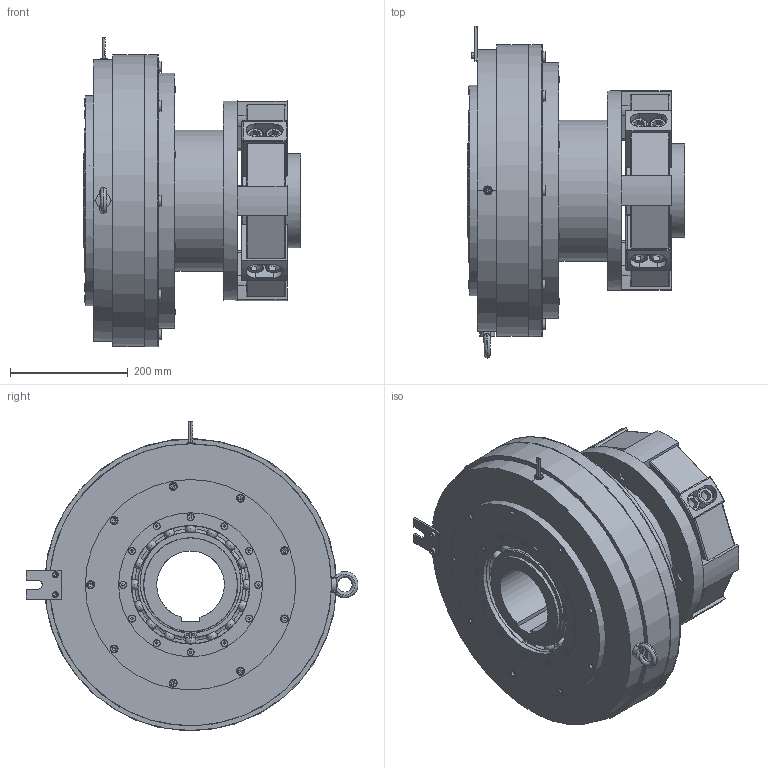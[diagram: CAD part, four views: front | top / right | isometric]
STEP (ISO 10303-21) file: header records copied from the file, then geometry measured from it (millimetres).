
FILE_DESCRIPTION(/* description */ (''),/* implementation_level */ '2;1');
FILE_NAME(/* name */ 'X:\INVENTOR\DISEGNI\08_Freni_Friz_Elettmag_Monodisco\08_26 EMSL_DF\EMSL_DF STEP\08_26_500_51 EMSL500_DF-GE@STEP.stp',/* time_stamp */ '2018-04-24T10:21:56+02:00',/* author */ ('stefano'),/* organization */ (''),/* preprocessor_version */ 'ST-DEVELOPER v17',/* originating_system */ 'Autodesk Inventor 2018',/* authorisation */ '');
FILE_SCHEMA (('AUTOMOTIVE_DESIGN { 1 0 10303 214 3 1 1 }'));
Products named in the file (1): 08_26_500_51 EMSL500_DF-GE_Substitute_1
Bounding box: 370 x 564.8 x 526.29 mm (x, y, z)
Volume: 28066131.3 mm3; surface area: 2840122.1 mm2
Topology: 1 solids, 1 shells, 1650 faces, 5040 edges, 3439 vertices
Faces by surface type: plane 712, cylinder 573, torus 152, cone 151, sphere 55, bspline 7
Full cylindrical faces by diameter (mm): 4 x4, 5 x16, 8 x8, 8.376 x20, 10 x2, 11.34 x12, 12 x12, 12.5 x8, 13 x9, 13.5 x9, 13.835 x8, 15 x1, 16 x12, 16.5 x8, 17.294 x12, 18 x24, 20 x16, 30 x12, 31 x4, 85 x8, 145 x1, 150 x4, 155 x1, 160 x3, 168 x1, 169.2 x2, 170 x1, 173 x1, 178 x1, 179.2 x4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
Entity records: 67393 total; most frequent: CARTESIAN_POINT 20807, ORIENTED_EDGE 9746, DIRECTION 9654, EDGE_CURVE 4873, AXIS2_PLACEMENT_3D 3962, VERTEX_POINT 3439, CIRCLE 2236, EDGE_LOOP 2144
